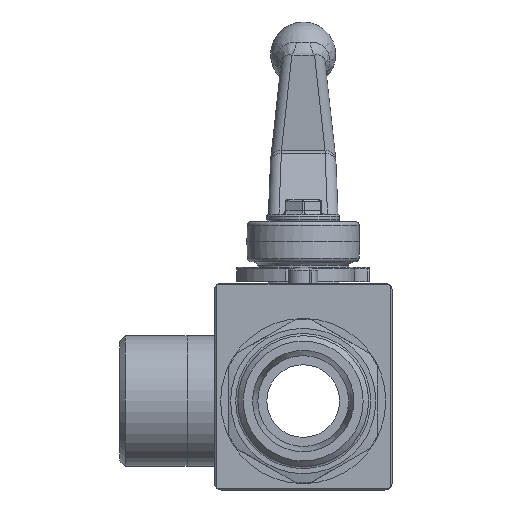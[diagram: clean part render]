
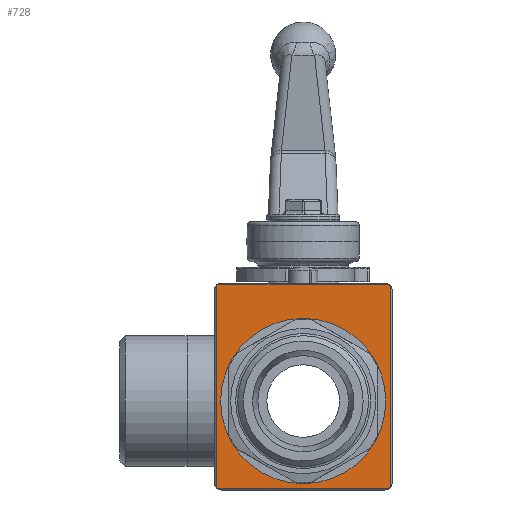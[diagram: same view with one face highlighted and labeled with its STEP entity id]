
A CAD part, front view. The second image highlights one B-rep face of the part: STEP entity #728.
In plain terms, the highlighted planar face has unit normal (0, -1, 0).
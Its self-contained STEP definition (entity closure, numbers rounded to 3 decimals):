
#728 = ADVANCED_FACE( '', ( #1653, #1654 ), #1655, .T. );
#1653 = FACE_OUTER_BOUND( '', #3146, .T. );
#1654 = FACE_BOUND( '', #3147, .T. );
#1655 = PLANE( '', #3148 );
#3146 = EDGE_LOOP( '', ( #5443, #5444, #5445, #5446, #5447, #5448, #5449, #5450 ) );
#3147 = EDGE_LOOP( '', ( #5451 ) );
#3148 = AXIS2_PLACEMENT_3D( '', #5452, #5453, #5454 );
#5443 = ORIENTED_EDGE( '', *, *, #8436, .T. );
#5444 = ORIENTED_EDGE( '', *, *, #8437, .T. );
#5445 = ORIENTED_EDGE( '', *, *, #8438, .T. );
#5446 = ORIENTED_EDGE( '', *, *, #8439, .T. );
#5447 = ORIENTED_EDGE( '', *, *, #8440, .T. );
#5448 = ORIENTED_EDGE( '', *, *, #8441, .T. );
#5449 = ORIENTED_EDGE( '', *, *, #8442, .T. );
#5450 = ORIENTED_EDGE( '', *, *, #8395, .T. );
#5451 = ORIENTED_EDGE( '', *, *, #8443, .F. );
#5452 = CARTESIAN_POINT( '', ( -24.5, -31.1, -24.5 ) );
#5453 = DIRECTION( '', ( 0., -1., 0. ) );
#5454 = DIRECTION( '', ( 0., 0., -1. ) );
#8395 = EDGE_CURVE( '', #9834, #9846, #9848, .T. );
#8436 = EDGE_CURVE( '', #9846, #9916, #9917, .T. );
#8437 = EDGE_CURVE( '', #9916, #9918, #9919, .T. );
#8438 = EDGE_CURVE( '', #9918, #9920, #9921, .T. );
#8439 = EDGE_CURVE( '', #9920, #9922, #9923, .T. );
#8440 = EDGE_CURVE( '', #9922, #9924, #9925, .T. );
#8441 = EDGE_CURVE( '', #9924, #9926, #9927, .T. );
#8442 = EDGE_CURVE( '', #9926, #9834, #9928, .T. );
#8443 = EDGE_CURVE( '', #9929, #9929, #9930, .T. );
#9834 = VERTEX_POINT( '', #12307 );
#9846 = VERTEX_POINT( '', #12321 );
#9848 = CIRCLE( '', #12323, 2. );
#9916 = VERTEX_POINT( '', #12437 );
#9917 = LINE( '', #12438, #12439 );
#9918 = VERTEX_POINT( '', #12440 );
#9919 = CIRCLE( '', #12441, 2. );
#9920 = VERTEX_POINT( '', #12442 );
#9921 = LINE( '', #12443, #12444 );
#9922 = VERTEX_POINT( '', #12445 );
#9923 = CIRCLE( '', #12446, 2. );
#9924 = VERTEX_POINT( '', #12447 );
#9925 = LINE( '', #12448, #12449 );
#9926 = VERTEX_POINT( '', #12450 );
#9927 = CIRCLE( '', #12451, 2. );
#9928 = LINE( '', #12452, #12453 );
#9929 = VERTEX_POINT( '', #12454 );
#9930 = CIRCLE( '', #12455, 22.75 );
#12307 = CARTESIAN_POINT( '', ( -24., -31.1, -23.823 ) );
#12321 = CARTESIAN_POINT( '', ( -23.823, -31.1, -24. ) );
#12323 = AXIS2_PLACEMENT_3D( '', #15062, #15063, #15064 );
#12437 = CARTESIAN_POINT( '', ( 23.823, -31.1, -24. ) );
#12438 = CARTESIAN_POINT( '', ( 24.5, -31.1, -24. ) );
#12439 = VECTOR( '', #15115, 1000. );
#12440 = CARTESIAN_POINT( '', ( 24., -31.1, -23.823 ) );
#12441 = AXIS2_PLACEMENT_3D( '', #15116, #15117, #15118 );
#12442 = CARTESIAN_POINT( '', ( 24., -31.1, 31.823 ) );
#12443 = CARTESIAN_POINT( '', ( 24., -31.1, 32.5 ) );
#12444 = VECTOR( '', #15119, 1000. );
#12445 = CARTESIAN_POINT( '', ( 23.823, -31.1, 32. ) );
#12446 = AXIS2_PLACEMENT_3D( '', #15120, #15121, #15122 );
#12447 = CARTESIAN_POINT( '', ( -23.823, -31.1, 32. ) );
#12448 = CARTESIAN_POINT( '', ( -24.5, -31.1, 32. ) );
#12449 = VECTOR( '', #15123, 1000. );
#12450 = CARTESIAN_POINT( '', ( -24., -31.1, 31.823 ) );
#12451 = AXIS2_PLACEMENT_3D( '', #15124, #15125, #15126 );
#12452 = CARTESIAN_POINT( '', ( -24., -31.1, -24.5 ) );
#12453 = VECTOR( '', #15127, 1000. );
#12454 = CARTESIAN_POINT( '', ( 22.75, -31.1, 0. ) );
#12455 = AXIS2_PLACEMENT_3D( '', #15128, #15129, #15130 );
#15062 = CARTESIAN_POINT( '', ( -22.5, -31.1, -22.5 ) );
#15063 = DIRECTION( '', ( 0., -1., 0. ) );
#15064 = DIRECTION( '', ( 0., 0., -1. ) );
#15115 = DIRECTION( '', ( 1., 0., 0. ) );
#15116 = CARTESIAN_POINT( '', ( 22.5, -31.1, -22.5 ) );
#15117 = DIRECTION( '', ( 0., -1., 0. ) );
#15118 = DIRECTION( '', ( 0., 0., -1. ) );
#15119 = DIRECTION( '', ( 0., 0., 1. ) );
#15120 = CARTESIAN_POINT( '', ( 22.5, -31.1, 30.5 ) );
#15121 = DIRECTION( '', ( 0., -1., 0. ) );
#15122 = DIRECTION( '', ( 0., 0., -1. ) );
#15123 = DIRECTION( '', ( -1., 0., 0. ) );
#15124 = CARTESIAN_POINT( '', ( -22.5, -31.1, 30.5 ) );
#15125 = DIRECTION( '', ( 0., -1., 0. ) );
#15126 = DIRECTION( '', ( 0., 0., -1. ) );
#15127 = DIRECTION( '', ( 0., 0., -1. ) );
#15128 = CARTESIAN_POINT( '', ( 0., -31.1, 0. ) );
#15129 = DIRECTION( '', ( 0., -1., 0. ) );
#15130 = DIRECTION( '', ( 1., 0., 0. ) );
